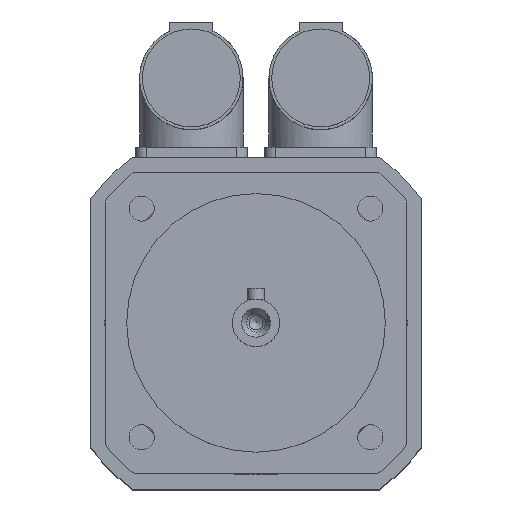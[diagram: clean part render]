
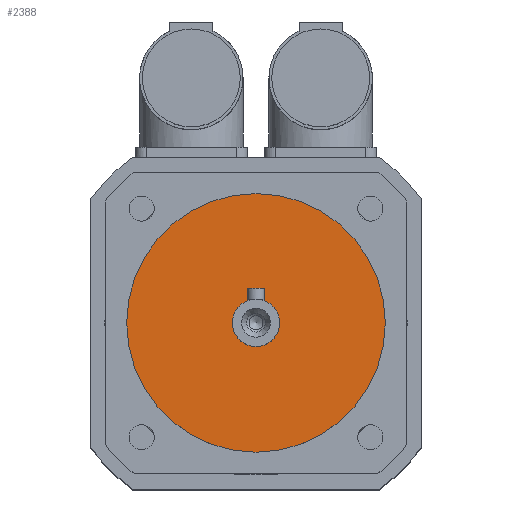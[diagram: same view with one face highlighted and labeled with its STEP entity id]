
A CAD part, top view. The second image highlights one B-rep face of the part: STEP entity #2388.
In plain terms, the highlighted planar face has unit normal (0, 0, 1).
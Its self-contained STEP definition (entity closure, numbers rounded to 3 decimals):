
#484=PLANE('',#2572);
#601=FACE_BOUND('',#819,.T.);
#665=FACE_OUTER_BOUND('',#818,.T.);
#818=EDGE_LOOP('',(#1867));
#819=EDGE_LOOP('',(#1868));
#965=CIRCLE('',#2571,5.5);
#966=CIRCLE('',#2573,30.);
#1130=VERTEX_POINT('',#3794);
#1131=VERTEX_POINT('',#3797);
#1405=EDGE_CURVE('',#1130,#1130,#965,.T.);
#1406=EDGE_CURVE('',#1131,#1131,#966,.T.);
#1867=ORIENTED_EDGE('',*,*,#1406,.F.);
#1868=ORIENTED_EDGE('',*,*,#1405,.T.);
#2388=ADVANCED_FACE('',(#665,#601),#484,.T.);
#2571=AXIS2_PLACEMENT_3D('',#3795,#2996,#2997);
#2572=AXIS2_PLACEMENT_3D('',#3796,#2998,#2999);
#2573=AXIS2_PLACEMENT_3D('',#3798,#3000,#3001);
#2996=DIRECTION('center_axis',(0.,0.,-1.));
#2997=DIRECTION('ref_axis',(1.,0.,0.));
#2998=DIRECTION('center_axis',(0.,0.,1.));
#2999=DIRECTION('ref_axis',(1.,0.,0.));
#3000=DIRECTION('center_axis',(0.,0.,-1.));
#3001=DIRECTION('ref_axis',(1.,0.,0.));
#3794=CARTESIAN_POINT('',(0.,5.5,136.));
#3795=CARTESIAN_POINT('Origin',(0.,0.,136.));
#3796=CARTESIAN_POINT('Origin',(0.,30.,136.));
#3797=CARTESIAN_POINT('',(0.,30.,136.));
#3798=CARTESIAN_POINT('Origin',(0.,0.,136.));
